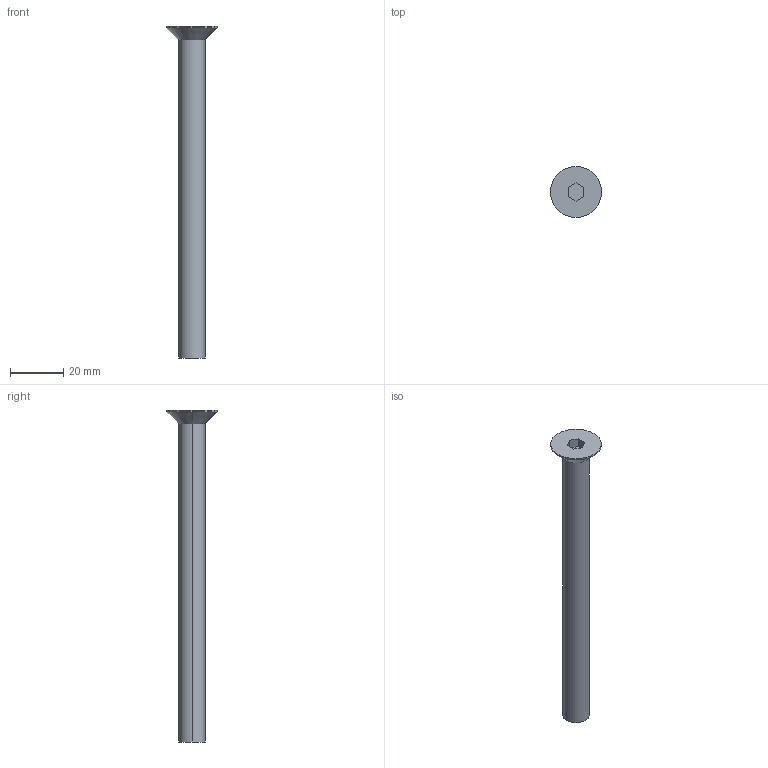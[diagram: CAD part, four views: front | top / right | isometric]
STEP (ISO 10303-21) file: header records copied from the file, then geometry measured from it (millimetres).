
FILE_DESCRIPTION (( 'STEP AP214' ), '1' );
FILE_NAME ('COUNTERSHUNK_HEAD_BOLT_M10(L=120).STEP', '2021-09-18T10:25:10', ( '' ), ( '' ), 'SwSTEP 2.0', 'SolidWorks 2018', '' );
FILE_SCHEMA (( 'AUTOMOTIVE_DESIGN' ));
Length unit declared in the file: millimetre
Products named in the file (1): COUNTERSHUNK_HEAD_BOLT_M10(L=120)
Bounding box: 19.22 x 19.22 x 125.22 mm (x, y, z)
Volume: 10288 mm3; surface area: 4549.5 mm2
Topology: 1 solids, 1 shells, 15 faces, 32 edges, 20 vertices
Faces by surface type: plane 9, cylinder 4, cone 2
Entity records: 436 total; most frequent: DIRECTION 72, CARTESIAN_POINT 68, ORIENTED_EDGE 64, EDGE_CURVE 32, LINE 24, AXIS2_PLACEMENT_3D 24, VECTOR 24, VERTEX_POINT 20
